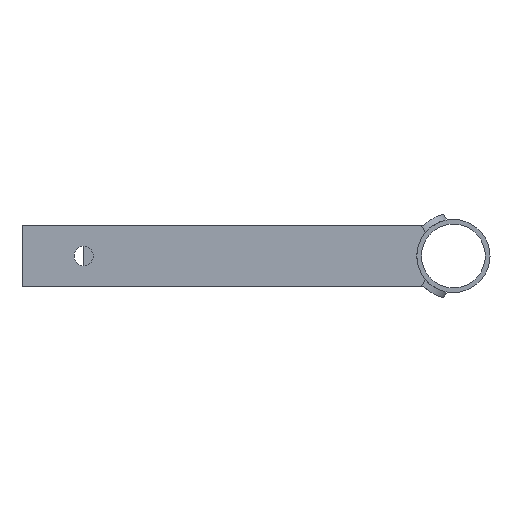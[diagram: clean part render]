
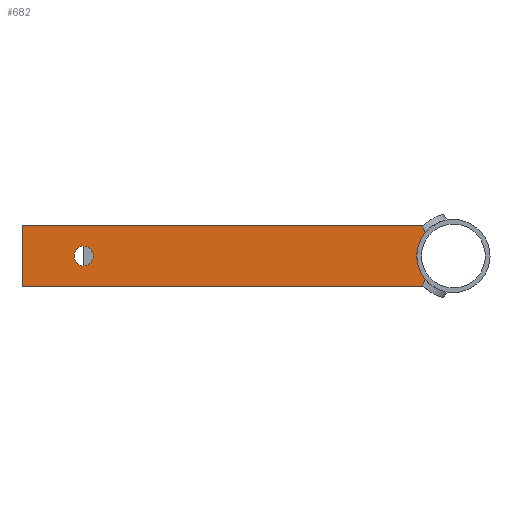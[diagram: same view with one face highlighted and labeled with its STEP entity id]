
A CAD part, front view. The second image highlights one B-rep face of the part: STEP entity #682.
In plain terms, the highlighted planar face has unit normal (0, -1, 0).
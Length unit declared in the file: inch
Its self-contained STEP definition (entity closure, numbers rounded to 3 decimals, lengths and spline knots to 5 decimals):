
#15=FACE_BOUND('',#133,.T.);
#28=CIRCLE('',#738,1.1875);
#31=CIRCLE('',#741,1.1875);
#37=CIRCLE('',#751,0.3125);
#67=PLANE('',#756);
#97=FACE_OUTER_BOUND('',#132,.T.);
#132=EDGE_LOOP('',(#554,#555,#556,#557,#558,#559,#560));
#133=EDGE_LOOP('',(#561));
#161=LINE('',#1029,#211);
#168=LINE('',#1082,#218);
#169=LINE('',#1088,#219);
#175=LINE('',#1141,#225);
#201=LINE('',#1261,#251);
#211=VECTOR('',#796,0.3937);
#218=VECTOR('',#809,0.3937);
#219=VECTOR('',#814,0.3937);
#225=VECTOR('',#824,0.3937);
#251=VECTOR('',#908,0.3937);
#268=VERTEX_POINT('',#1026);
#269=VERTEX_POINT('',#1028);
#274=VERTEX_POINT('',#1061);
#276=VERTEX_POINT('',#1085);
#277=VERTEX_POINT('',#1087);
#284=VERTEX_POINT('',#1139);
#301=VERTEX_POINT('',#1226);
#310=VERTEX_POINT('',#1254);
#335=EDGE_CURVE('',#269,#268,#161,.T.);
#344=EDGE_CURVE('',#274,#268,#168,.T.);
#346=EDGE_CURVE('',#276,#277,#169,.T.);
#355=EDGE_CURVE('',#276,#284,#175,.T.);
#381=EDGE_CURVE('',#301,#274,#28,.T.);
#385=EDGE_CURVE('',#277,#301,#31,.T.);
#395=EDGE_CURVE('',#310,#310,#37,.T.);
#399=EDGE_CURVE('',#284,#269,#201,.T.);
#554=ORIENTED_EDGE('',*,*,#344,.F.);
#555=ORIENTED_EDGE('',*,*,#381,.F.);
#556=ORIENTED_EDGE('',*,*,#385,.F.);
#557=ORIENTED_EDGE('',*,*,#346,.F.);
#558=ORIENTED_EDGE('',*,*,#355,.T.);
#559=ORIENTED_EDGE('',*,*,#399,.T.);
#560=ORIENTED_EDGE('',*,*,#335,.T.);
#561=ORIENTED_EDGE('',*,*,#395,.T.);
#682=ADVANCED_FACE('',(#97,#15),#67,.T.);
#738=AXIS2_PLACEMENT_3D('',#1228,#870,#871);
#741=AXIS2_PLACEMENT_3D('',#1234,#877,#878);
#751=AXIS2_PLACEMENT_3D('',#1255,#901,#902);
#756=AXIS2_PLACEMENT_3D('',#1267,#917,#918);
#796=DIRECTION('',(1.,0.,0.));
#809=DIRECTION('',(-0.5,0.,-0.866));
#814=DIRECTION('',(0.5,0.,-0.866));
#824=DIRECTION('',(-1.,0.,0.));
#870=DIRECTION('center_axis',(0.,-1.,0.));
#871=DIRECTION('ref_axis',(1.,0.,0.));
#877=DIRECTION('center_axis',(0.,-1.,0.));
#878=DIRECTION('ref_axis',(1.,0.,0.));
#901=DIRECTION('center_axis',(0.,1.,0.));
#902=DIRECTION('ref_axis',(-1.,0.,0.));
#908=DIRECTION('',(0.,0.,-1.));
#917=DIRECTION('center_axis',(0.,-1.,0.));
#918=DIRECTION('ref_axis',(0.,0.,-1.));
#1026=CARTESIAN_POINT('',(-1.04209,4.,-1.));
#1028=CARTESIAN_POINT('',(-14.,4.,-1.));
#1029=CARTESIAN_POINT('',(-14.,4.,-1.));
#1061=CARTESIAN_POINT('',(-0.90716,4.,-0.7663));
#1082=CARTESIAN_POINT('',(-1.69816,4.,-2.13634));
#1085=CARTESIAN_POINT('',(-1.04209,4.,1.));
#1087=CARTESIAN_POINT('',(-0.90716,4.,0.7663));
#1088=CARTESIAN_POINT('',(-1.36103,4.,1.55243));
#1139=CARTESIAN_POINT('',(-14.,4.,1.));
#1141=CARTESIAN_POINT('',(0.,4.,1.));
#1226=CARTESIAN_POINT('',(-1.1875,4.,0.));
#1228=CARTESIAN_POINT('Origin',(0.,4.,0.));
#1234=CARTESIAN_POINT('Origin',(0.,4.,0.));
#1254=CARTESIAN_POINT('',(-11.6875,4.,0.));
#1255=CARTESIAN_POINT('Origin',(-12.,4.,0.));
#1261=CARTESIAN_POINT('',(-14.,4.,-0.8));
#1267=CARTESIAN_POINT('Origin',(-7.,4.,-0.9));
